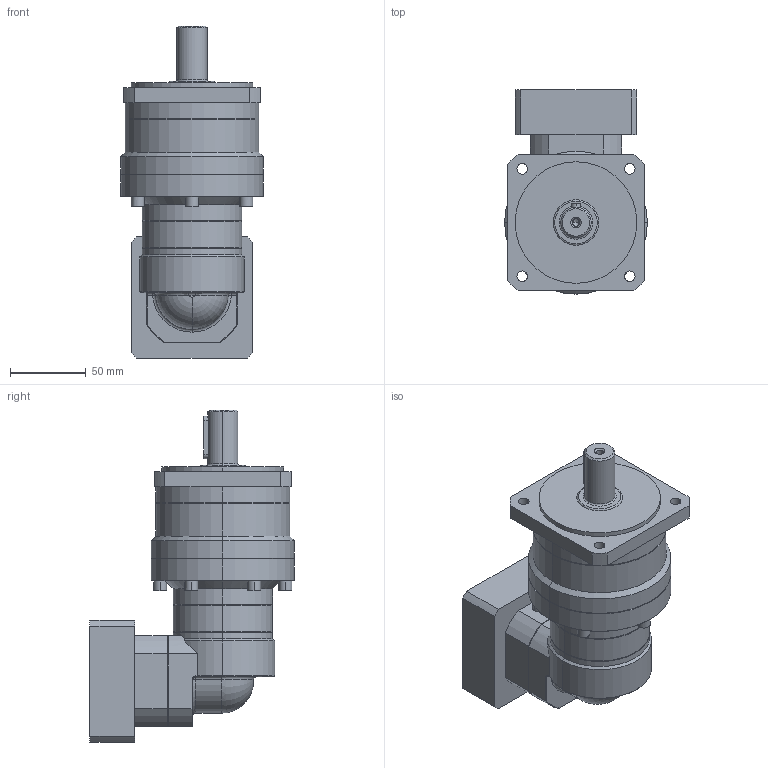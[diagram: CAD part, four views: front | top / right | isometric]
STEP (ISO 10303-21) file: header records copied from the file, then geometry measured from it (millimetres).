
FILE_DESCRIPTION (( 'STEP AP214' ), '1' );
FILE_NAME ('FBR090-L2-S2-P2 19-70-90-M6.STEP', '2025-02-15T07:57:02', ( '微软用户' ), ( '微软中国' ), 'SwSTEP 2.0', 'SolidWorks 2021', '' );
FILE_SCHEMA (( 'AUTOMOTIVE_DESIGN' ));
Length unit declared in the file: millimetre
Products named in the file (1): FBR090-L2-S2-P2 19-70-90-M6
Bounding box: 94 x 134.5 x 218.5 mm (x, y, z)
Volume: 1005518 mm3; surface area: 94183.8 mm2
Topology: 1 solids, 1 shells, 234 faces, 565 edges, 355 vertices
Faces by surface type: plane 103, cylinder 85, cone 34, torus 8, sphere 2, bspline 2
Entity records: 7322 total; most frequent: CARTESIAN_POINT 1690, DIRECTION 1214, ORIENTED_EDGE 1122, EDGE_CURVE 561, AXIS2_PLACEMENT_3D 457, VERTEX_POINT 355, LINE 300, VECTOR 300
